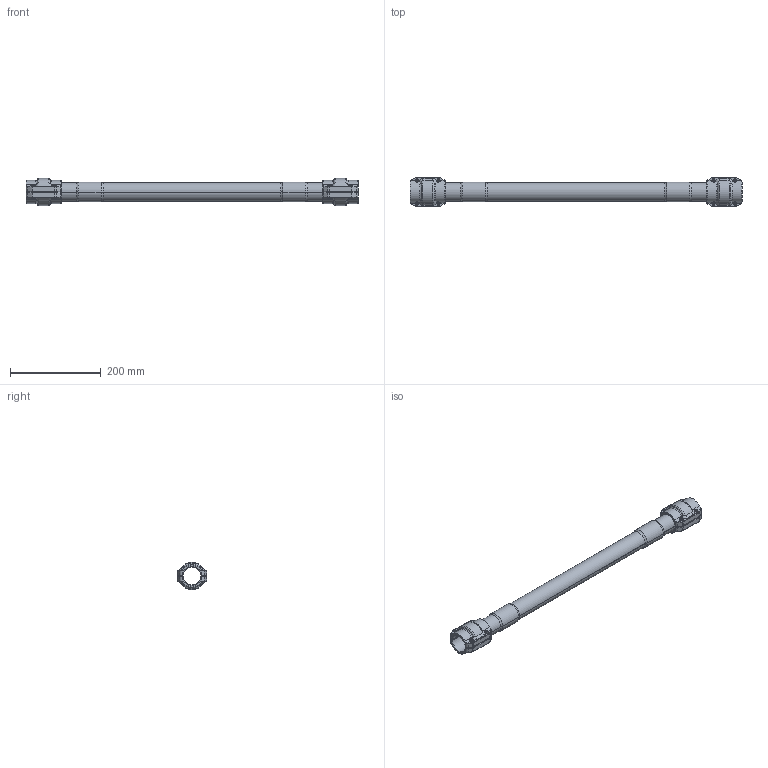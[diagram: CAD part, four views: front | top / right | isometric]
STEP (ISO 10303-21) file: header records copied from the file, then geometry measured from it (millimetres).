
FILE_DESCRIPTION((''),'2;1');
FILE_NAME('2015405599_ASM','2017-05-12T',('Administrator'),(''),'PRO/ENGINEER BY PARAMETRIC TECHNOLOGY CORPORATION, 2009360','PRO/ENGINEER BY PARAMETRIC TECHNOLOGY CORPORATION, 2009360','');
FILE_SCHEMA(('AUTOMOTIVE_DESIGN_CC2 { 1 2 10303 214 -1 1 5 2 }'));
Length unit declared in the file: millimetre
Products named in the file (5): 2015405500; 201540020001; 201540020000; 2015400200_ASM; 2015405599_ASM
Assembly tree (5 placements, depth 3):
  2015405599_ASM
    2015405500
    2015400200_ASM  x2
      201540020001
      201540020000
Bounding box: 731 x 65 x 59.9 mm (x, y, z)
Volume: 303044.9 mm3; surface area: 223029.7 mm2
Topology: 5 solids, 5 shells, 446 faces, 1126 edges, 690 vertices
Faces by surface type: cylinder 196, torus 104, plane 74, bspline 48, sphere 16, cone 8
Entity records: 10041 total; most frequent: CARTESIAN_POINT 2633, DIRECTION 1186, ORIENTED_EDGE 1170, PRESENTATION_STYLE_ASSIGNMENT 588, STYLED_ITEM 588, CURVE_STYLE 585, EDGE_CURVE 585, AXIS2_PLACEMENT_3D 499
